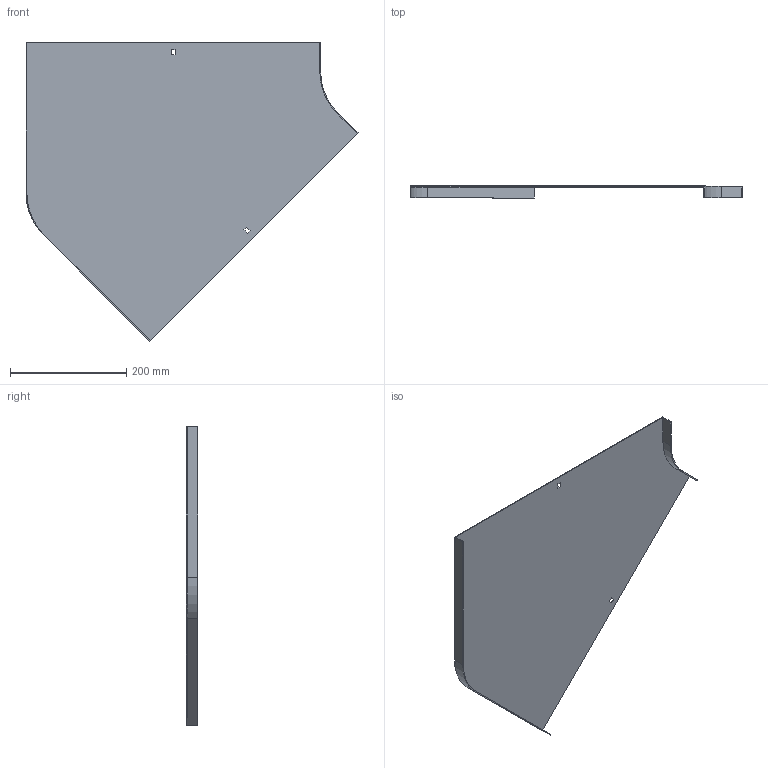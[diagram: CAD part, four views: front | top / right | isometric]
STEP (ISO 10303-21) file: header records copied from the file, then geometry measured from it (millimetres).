
FILE_DESCRIPTION (( 'STEP AP214' ), '1' );
FILE_NAME ('11N1R500.step', '2025-02-21T09:21:13', ( '' ), ( '' ), 'SwSTEP 2.0', 'SolidWorks 2023', '' );
FILE_SCHEMA (( 'AUTOMOTIVE_DESIGN' ));
Length unit declared in the file: millimetre
Products named in the file (1): 11N1R500
Bounding box: 571.21 x 20 x 513.51 mm (x, y, z)
Volume: 319117.1 mm3; surface area: 428376.4 mm2
Topology: 1 solids, 1 shells, 26 faces, 72 edges, 48 vertices
Faces by surface type: plane 22, cylinder 4
Entity records: 855 total; most frequent: CARTESIAN_POINT 147, ORIENTED_EDGE 144, DIRECTION 134, EDGE_CURVE 72, LINE 64, VECTOR 64, VERTEX_POINT 48, AXIS2_PLACEMENT_3D 35
